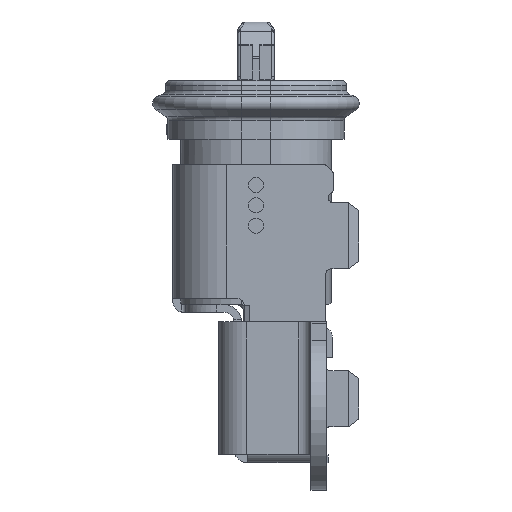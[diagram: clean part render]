
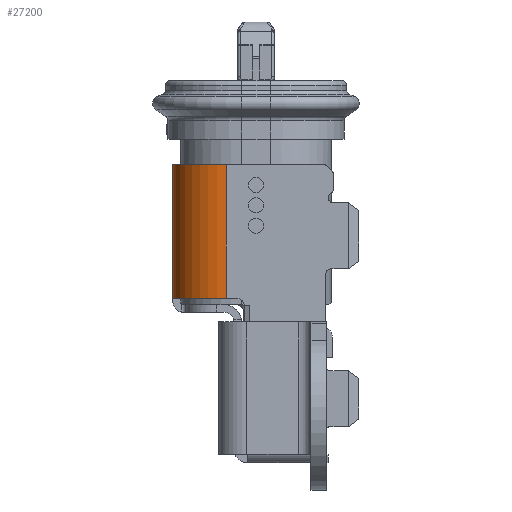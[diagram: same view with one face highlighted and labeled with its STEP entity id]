
A CAD part, left-side view. The second image highlights one B-rep face of the part: STEP entity #27200.
In plain terms, the highlighted cylindrical face has radius 1.05 mm (diameter 2.1 mm), a partial arc.
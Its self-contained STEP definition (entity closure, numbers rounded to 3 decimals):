
#705 = VECTOR ( 'NONE', #13206, 1000. ) ;
#3663 = LINE ( 'NONE', #8318, #13184 ) ;
#4309 = EDGE_LOOP ( 'NONE', ( #55314, #28552, #64328, #7750 ) ) ;
#4532 = VERTEX_POINT ( 'NONE', #39049 ) ;
#5113 = CARTESIAN_POINT ( 'NONE',  ( -3.475, 0.58, 1.65 ) ) ;
#6243 = DIRECTION ( 'NONE',  ( -1., 0., 0. ) ) ;
#7750 = ORIENTED_EDGE ( 'NONE', *, *, #47449, .F. ) ;
#8318 = CARTESIAN_POINT ( 'NONE',  ( -3.475, 1.63, 0.9 ) ) ;
#8553 = CIRCLE ( 'NONE', #54218, 1.05 ) ;
#10115 = DIRECTION ( 'NONE',  ( -1., 0., 0. ) ) ;
#11310 = EDGE_CURVE ( 'NONE', #59898, #14756, #3663, .T. ) ;
#13184 = VECTOR ( 'NONE', #63864, 1000. ) ;
#13206 = DIRECTION ( 'NONE',  ( 0., 0., -1. ) ) ;
#14174 = EDGE_CURVE ( 'NONE', #61446, #4532, #53457, .T. ) ;
#14357 = CIRCLE ( 'NONE', #64311, 1.05 ) ;
#14479 = CARTESIAN_POINT ( 'NONE',  ( -3.475, 0.58, 0.9 ) ) ;
#14756 = VERTEX_POINT ( 'NONE', #34287 ) ;
#25097 = CARTESIAN_POINT ( 'NONE',  ( -3.475, 1.63, 1.65 ) ) ;
#25115 = DIRECTION ( 'NONE',  ( 1., 0., 0. ) ) ;
#26660 = CARTESIAN_POINT ( 'NONE',  ( -4.525, 0.58, 1.65 ) ) ;
#27200 = ADVANCED_FACE ( 'NONE', ( #34426 ), #39088, .T. ) ;
#28174 = CARTESIAN_POINT ( 'NONE',  ( -4.525, 0.58, 0.9 ) ) ;
#28552 = ORIENTED_EDGE ( 'NONE', *, *, #59072, .T. ) ;
#30137 = AXIS2_PLACEMENT_3D ( 'NONE', #14479, #64379, #25115 ) ;
#34287 = CARTESIAN_POINT ( 'NONE',  ( -3.475, 1.63, -0.975 ) ) ;
#34426 = FACE_OUTER_BOUND ( 'NONE', #4309, .T. ) ;
#35715 = DIRECTION ( 'NONE',  ( 0., 0., -1. ) ) ;
#39049 = CARTESIAN_POINT ( 'NONE',  ( -4.525, 0.58, -0.975 ) ) ;
#39088 = CYLINDRICAL_SURFACE ( 'NONE', #30137, 1.05 ) ;
#47142 = CARTESIAN_POINT ( 'NONE',  ( -3.475, 0.58, -0.975 ) ) ;
#47449 = EDGE_CURVE ( 'NONE', #4532, #14756, #14357, .T. ) ;
#51827 = DIRECTION ( 'NONE',  ( 0., 0., -1. ) ) ;
#53457 = LINE ( 'NONE', #28174, #705 ) ;
#54218 = AXIS2_PLACEMENT_3D ( 'NONE', #5113, #35715, #10115 ) ;
#55314 = ORIENTED_EDGE ( 'NONE', *, *, #14174, .F. ) ;
#59072 = EDGE_CURVE ( 'NONE', #61446, #59898, #8553, .T. ) ;
#59898 = VERTEX_POINT ( 'NONE', #25097 ) ;
#61446 = VERTEX_POINT ( 'NONE', #26660 ) ;
#63864 = DIRECTION ( 'NONE',  ( 0., 0., -1. ) ) ;
#64311 = AXIS2_PLACEMENT_3D ( 'NONE', #47142, #51827, #6243 ) ;
#64328 = ORIENTED_EDGE ( 'NONE', *, *, #11310, .T. ) ;
#64379 = DIRECTION ( 'NONE',  ( 0., 0., -1. ) ) ;
